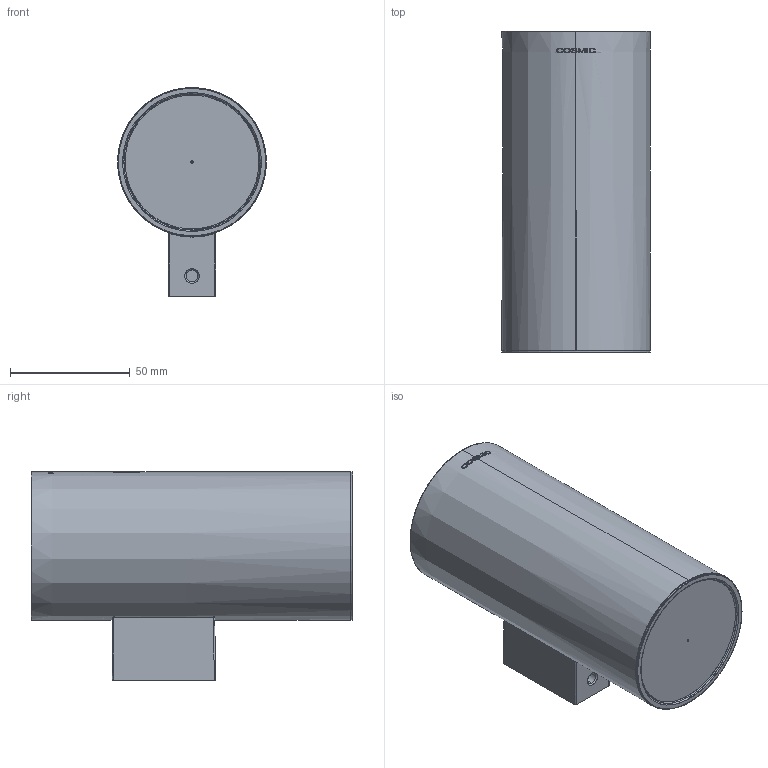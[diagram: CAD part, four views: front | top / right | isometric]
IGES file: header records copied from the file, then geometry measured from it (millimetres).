
Start section: SolidWorks IGES file using analytic representation for surfaces
Global section: file name: G:\Projects\New project\For Marketing\IGS\IGS\2050153VW.IGS; native system: SolidWorks 2010; preprocessor: SolidWorks 2010; author: weijuan; date: 151008.150824; units: inch
Bounding box: 62 x 134 x 87 mm (x, y, z)
Surface area: 54585.3 mm2 (no closed solid volume)
Topology: 0 solids, 0 shells, 198 faces, 2394 edges, 2381 vertices
Faces by surface type: bspline 111, revolution 87
